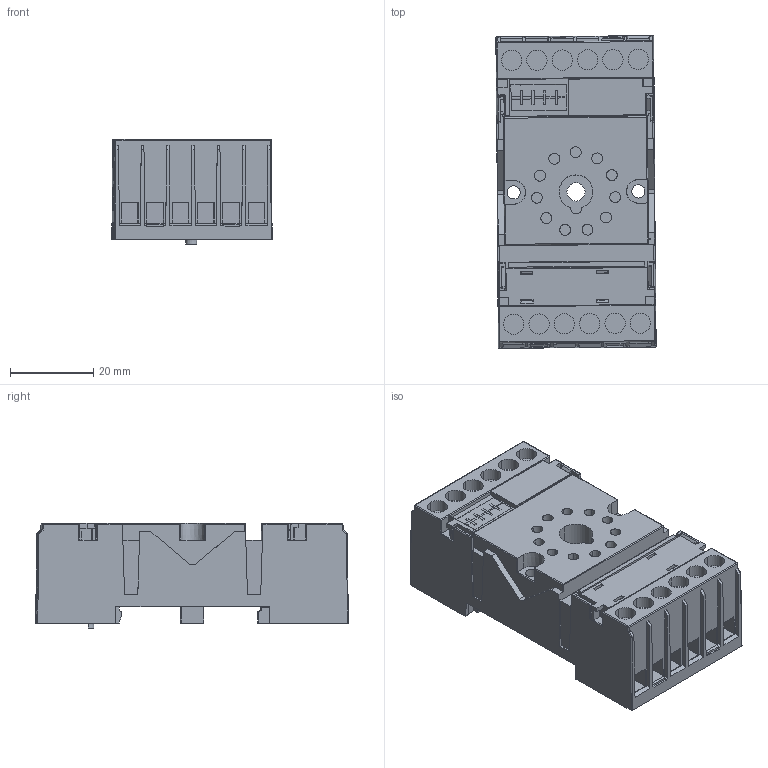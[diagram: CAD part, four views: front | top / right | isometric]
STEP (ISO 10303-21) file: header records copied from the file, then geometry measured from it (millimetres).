
FILE_DESCRIPTION (( 'STEP AP214' ), '1' );
FILE_NAME ('S3-M1.STEP', '2024-04-11T06:15:46', ( '' ), ( '' ), 'SwSTEP 2.0', 'SolidWorks 2022', '' );
FILE_SCHEMA (( 'AUTOMOTIVE_DESIGN' ));
Length unit declared in the file: millimetre
Products named in the file (1): S3-M1
Bounding box: 38.59 x 75.3 x 25.3 mm (x, y, z)
Volume: 773.5 mm3; surface area: 21851.1 mm2
Topology: 27 solids, 28 shells, 1332 faces, 3643 edges, 2357 vertices
Faces by surface type: plane 1036, cylinder 225, cone 46, sphere 18, bspline 5, torus 2
Entity records: 56243 total; most frequent: CARTESIAN_POINT 8693, ORIENTED_EDGE 7262, DIRECTION 6275, EDGE_CURVE 3631, LINE 2889, VECTOR 2889, VERTEX_POINT 2363, AXIS2_PLACEMENT_3D 1693
